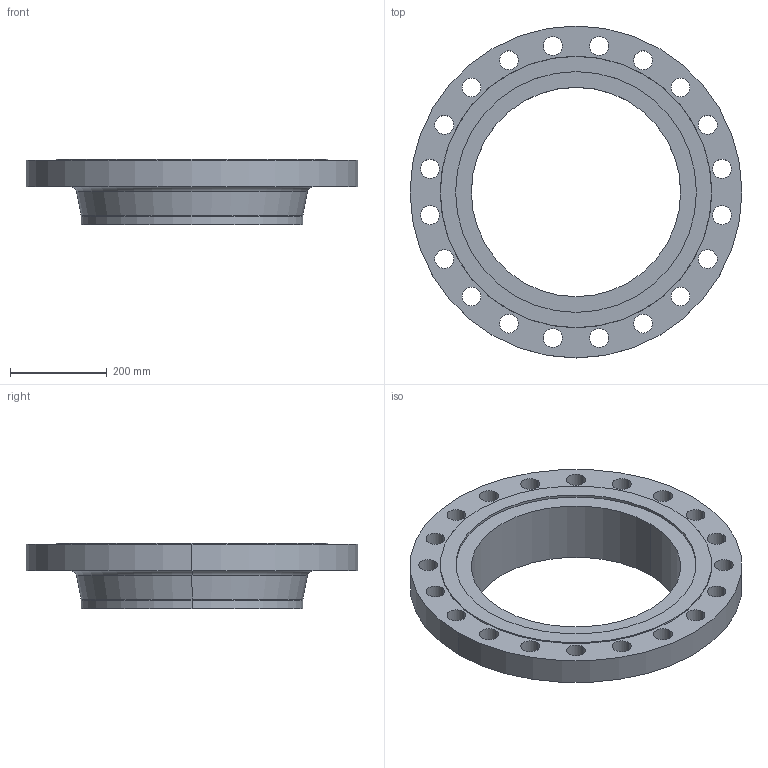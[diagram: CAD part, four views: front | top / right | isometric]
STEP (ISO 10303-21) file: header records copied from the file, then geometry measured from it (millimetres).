
FILE_DESCRIPTION (( 'STEP AP214' ), '1' );
FILE_NAME ('PN40 DN450 Type 11 - Type G Face.STEP', '2018-12-29T04:55:04', ( '' ), ( '' ), 'SwSTEP 2.0', 'SolidWorks 2019', '' );
FILE_SCHEMA (( 'AUTOMOTIVE_DESIGN' ));
Length unit declared in the file: millimetre
Products named in the file (1): PN40 DN450 Type 11 - Type G Face
Bounding box: 685 x 685 x 135 mm (x, y, z)
Volume: 12725783.8 mm3; surface area: 930423.2 mm2
Topology: 1 solids, 1 shells, 61 faces, 162 edges, 106 vertices
Faces by surface type: cylinder 48, plane 5, torus 4, cone 4
Entity records: 2076 total; most frequent: DIRECTION 396, CARTESIAN_POINT 330, ORIENTED_EDGE 324, AXIS2_PLACEMENT_3D 172, EDGE_CURVE 162, CIRCLE 110, VERTEX_POINT 106, EDGE_LOOP 106
